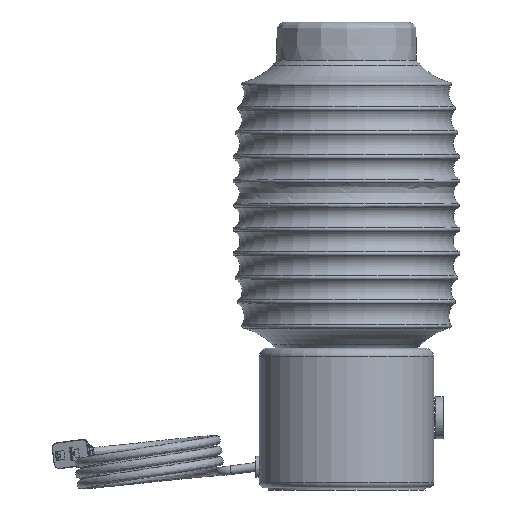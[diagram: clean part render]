
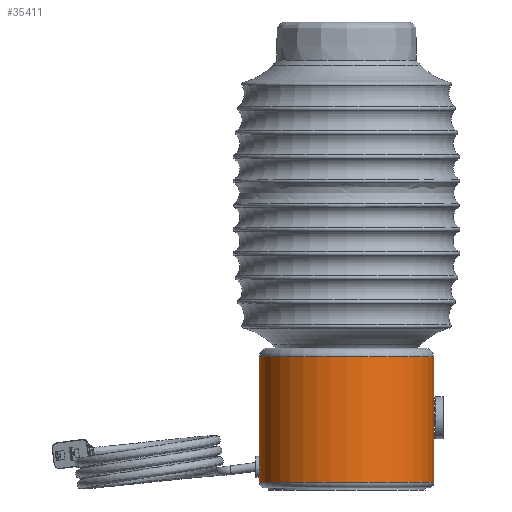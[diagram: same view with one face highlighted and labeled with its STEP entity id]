
A CAD part, left-side view. The second image highlights one B-rep face of the part: STEP entity #35411.
In plain terms, the highlighted cylindrical face has radius 63.5 mm (diameter 127 mm), a full revolution.
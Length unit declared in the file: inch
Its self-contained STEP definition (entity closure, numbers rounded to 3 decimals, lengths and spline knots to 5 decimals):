
#173=FACE_BOUND('',#6167,.T.);
#174=FACE_BOUND('',#6168,.T.);
#491=B_SPLINE_CURVE_WITH_KNOTS('',3,(#51754,#51755,#51756,#51757,#51758,
#51759,#51760,#51761,#51762,#51763,#51764,#51765,#51766,#51767,#51768,#51769,
#51770,#51771,#51772,#51773,#51774,#51775,#51776,#51777,#51778,#51779,#51780,
#51781,#51782,#51783,#51784,#51785,#51786,#51787),.UNSPECIFIED.,.T.,.F.,
(4,2,2,2,2,2,2,2,2,2,2,2,2,2,2,2,4),(0.,0.19144,0.38288,
0.57429,0.7657,0.95719,1.14868,
1.34013,1.53157,1.72302,1.91447,2.10596,
2.29745,2.48886,2.68027,2.87171,3.06315),
 .UNSPECIFIED.);
#492=B_SPLINE_CURVE_WITH_KNOTS('',3,(#51790,#51791,#51792,#51793,#51794,
#51795,#51796,#51797,#51798,#51799,#51800,#51801,#51802,#51803,#51804,#51805,
#51806,#51807),.UNSPECIFIED.,.F.,.F.,(4,2,2,2,2,2,2,2,4),(0.,0.14355,
0.28711,0.43066,0.57422,0.71777,
0.86133,1.00488,1.14844),.UNSPECIFIED.);
#493=B_SPLINE_CURVE_WITH_KNOTS('',3,(#51808,#51809,#51810,#51811,#51812,
#51813,#51814,#51815,#51816,#51817,#51818,#51819,#51820,#51821,#51822,#51823,
#51824,#51825),.UNSPECIFIED.,.F.,.F.,(4,2,2,2,2,2,2,2,4),(1.14844,
1.29199,1.43555,1.5791,1.72266,1.86621,
2.00976,2.15332,2.29687),.UNSPECIFIED.);
#4091=FACE_OUTER_BOUND('',#6166,.T.);
#6166=EDGE_LOOP('',(#24862,#24863,#24864,#24865));
#6167=EDGE_LOOP('',(#24866));
#6168=EDGE_LOOP('',(#24867,#24868));
#8380=LINE('',#51752,#11675);
#11675=VECTOR('',#39813,2.5);
#14932=CIRCLE('',#37759,2.5);
#14935=CIRCLE('',#37763,2.5);
#15477=VERTEX_POINT('',#51744);
#15479=VERTEX_POINT('',#51750);
#15480=VERTEX_POINT('',#51753);
#15481=VERTEX_POINT('',#51788);
#15482=VERTEX_POINT('',#51789);
#19141=EDGE_CURVE('',#15477,#15477,#14932,.T.);
#19144=EDGE_CURVE('',#15479,#15479,#14935,.T.);
#19145=EDGE_CURVE('',#15479,#15477,#8380,.T.);
#19146=EDGE_CURVE('',#15480,#15480,#491,.F.);
#19147=EDGE_CURVE('',#15481,#15482,#492,.T.);
#19148=EDGE_CURVE('',#15482,#15481,#493,.T.);
#24862=ORIENTED_EDGE('',*,*,#19144,.F.);
#24863=ORIENTED_EDGE('',*,*,#19145,.T.);
#24864=ORIENTED_EDGE('',*,*,#19141,.F.);
#24865=ORIENTED_EDGE('',*,*,#19145,.F.);
#24866=ORIENTED_EDGE('',*,*,#19146,.T.);
#24867=ORIENTED_EDGE('',*,*,#19147,.T.);
#24868=ORIENTED_EDGE('',*,*,#19148,.T.);
#35210=CYLINDRICAL_SURFACE('',#37762,2.5);
#35411=ADVANCED_FACE('',(#4091,#173,#174),#35210,.T.);
#37759=AXIS2_PLACEMENT_3D('',#51745,#39803,#39804);
#37762=AXIS2_PLACEMENT_3D('',#51749,#39809,#39810);
#37763=AXIS2_PLACEMENT_3D('',#51751,#39811,#39812);
#39803=DIRECTION('center_axis',(0.,0.,-1.));
#39804=DIRECTION('ref_axis',(1.,0.,0.));
#39809=DIRECTION('center_axis',(0.,0.,1.));
#39810=DIRECTION('ref_axis',(1.,0.,0.));
#39811=DIRECTION('center_axis',(0.,0.,1.));
#39812=DIRECTION('ref_axis',(1.,0.,0.));
#39813=DIRECTION('',(0.,0.,-1.));
#51744=CARTESIAN_POINT('',(-2.5,0.,0.16));
#51745=CARTESIAN_POINT('Origin',(0.,0.,0.16));
#51749=CARTESIAN_POINT('Origin',(0.,0.,0.));
#51750=CARTESIAN_POINT('',(-2.5,0.,3.75));
#51751=CARTESIAN_POINT('Origin',(0.,0.,3.75));
#51752=CARTESIAN_POINT('',(-2.5,0.,0.));
#51753=CARTESIAN_POINT('',(-0.18297,2.4933,0.60024));
#51754=CARTESIAN_POINT('Ctrl Pts',(-0.18297,2.4933,
0.60024));
#51755=CARTESIAN_POINT('Ctrl Pts',(-0.18297,2.4933,
0.62537));
#51756=CARTESIAN_POINT('Ctrl Pts',(-0.17795,2.49368,
0.65216));
#51757=CARTESIAN_POINT('Ctrl Pts',(-0.15753,2.49505,
0.70143));
#51758=CARTESIAN_POINT('Ctrl Pts',(-0.14214,2.49602,0.72392));
#51759=CARTESIAN_POINT('Ctrl Pts',(-0.10663,2.49779,0.75942));
#51760=CARTESIAN_POINT('Ctrl Pts',(-0.08415,2.49871,
0.77481));
#51761=CARTESIAN_POINT('Ctrl Pts',(-0.03488,2.49988,
0.79522));
#51762=CARTESIAN_POINT('Ctrl Pts',(-0.00809,2.50011,
0.80024));
#51763=CARTESIAN_POINT('Ctrl Pts',(0.04216,2.49977,
0.80024));
#51764=CARTESIAN_POINT('Ctrl Pts',(0.06896,2.49917,
0.79522));
#51765=CARTESIAN_POINT('Ctrl Pts',(0.11823,2.49732,0.7748));
#51766=CARTESIAN_POINT('Ctrl Pts',(0.14071,2.4961,0.75941));
#51767=CARTESIAN_POINT('Ctrl Pts',(0.17621,2.49385,0.72391));
#51768=CARTESIAN_POINT('Ctrl Pts',(0.1916,2.49267,0.70143));
#51769=CARTESIAN_POINT('Ctrl Pts',(0.21201,2.49102,0.65216));
#51770=CARTESIAN_POINT('Ctrl Pts',(0.21703,2.49056,0.62537));
#51771=CARTESIAN_POINT('Ctrl Pts',(0.21703,2.49056,0.57512));
#51772=CARTESIAN_POINT('Ctrl Pts',(0.21201,2.49102,0.54833));
#51773=CARTESIAN_POINT('Ctrl Pts',(0.1916,2.49267,0.49906));
#51774=CARTESIAN_POINT('Ctrl Pts',(0.17621,2.49385,0.47658));
#51775=CARTESIAN_POINT('Ctrl Pts',(0.14071,2.4961,0.44108));
#51776=CARTESIAN_POINT('Ctrl Pts',(0.11823,2.49732,0.42568));
#51777=CARTESIAN_POINT('Ctrl Pts',(0.06896,2.49917,
0.40527));
#51778=CARTESIAN_POINT('Ctrl Pts',(0.04216,2.49977,
0.40024));
#51779=CARTESIAN_POINT('Ctrl Pts',(-0.00809,2.50011,
0.40024));
#51780=CARTESIAN_POINT('Ctrl Pts',(-0.03488,2.49988,
0.40526));
#51781=CARTESIAN_POINT('Ctrl Pts',(-0.08415,2.49871,
0.42567));
#51782=CARTESIAN_POINT('Ctrl Pts',(-0.10663,2.49779,0.44106));
#51783=CARTESIAN_POINT('Ctrl Pts',(-0.14214,2.49602,0.47657));
#51784=CARTESIAN_POINT('Ctrl Pts',(-0.15753,2.49505,
0.49905));
#51785=CARTESIAN_POINT('Ctrl Pts',(-0.17795,2.49368,
0.54833));
#51786=CARTESIAN_POINT('Ctrl Pts',(-0.18297,2.4933,
0.57512));
#51787=CARTESIAN_POINT('Ctrl Pts',(-0.18297,2.4933,
0.60024));
#51788=CARTESIAN_POINT('',(0.15,-2.4955,2.));
#51789=CARTESIAN_POINT('',(-0.15,-2.4955,2.));
#51790=CARTESIAN_POINT('Ctrl Pts',(0.15,-2.4955,2.));
#51791=CARTESIAN_POINT('Ctrl Pts',(0.15,-2.4955,1.98116));
#51792=CARTESIAN_POINT('Ctrl Pts',(0.14623,-2.49573,
1.96107));
#51793=CARTESIAN_POINT('Ctrl Pts',(0.13092,-2.49658,
1.92411));
#51794=CARTESIAN_POINT('Ctrl Pts',(0.11938,-2.49718,
1.90725));
#51795=CARTESIAN_POINT('Ctrl Pts',(0.09275,-2.49831,
1.88062));
#51796=CARTESIAN_POINT('Ctrl Pts',(0.07589,-2.49892,
1.86908));
#51797=CARTESIAN_POINT('Ctrl Pts',(0.03893,-2.49977,
1.85377));
#51798=CARTESIAN_POINT('Ctrl Pts',(0.01884,-2.5,
1.85));
#51799=CARTESIAN_POINT('Ctrl Pts',(-0.01884,-2.5,
1.85));
#51800=CARTESIAN_POINT('Ctrl Pts',(-0.03893,-2.49977,
1.85377));
#51801=CARTESIAN_POINT('Ctrl Pts',(-0.07589,-2.49892,
1.86908));
#51802=CARTESIAN_POINT('Ctrl Pts',(-0.09275,-2.49831,
1.88062));
#51803=CARTESIAN_POINT('Ctrl Pts',(-0.11938,-2.49718,
1.90725));
#51804=CARTESIAN_POINT('Ctrl Pts',(-0.13092,-2.49658,
1.92411));
#51805=CARTESIAN_POINT('Ctrl Pts',(-0.14623,-2.49573,
1.96107));
#51806=CARTESIAN_POINT('Ctrl Pts',(-0.15,-2.4955,1.98116));
#51807=CARTESIAN_POINT('Ctrl Pts',(-0.15,-2.4955,2.));
#51808=CARTESIAN_POINT('Ctrl Pts',(-0.15,-2.4955,2.));
#51809=CARTESIAN_POINT('Ctrl Pts',(-0.15,-2.4955,2.01884));
#51810=CARTESIAN_POINT('Ctrl Pts',(-0.14623,-2.49573,
2.03893));
#51811=CARTESIAN_POINT('Ctrl Pts',(-0.13092,-2.49658,
2.07589));
#51812=CARTESIAN_POINT('Ctrl Pts',(-0.11938,-2.49718,
2.09275));
#51813=CARTESIAN_POINT('Ctrl Pts',(-0.09275,-2.49831,
2.11938));
#51814=CARTESIAN_POINT('Ctrl Pts',(-0.07589,-2.49892,
2.13092));
#51815=CARTESIAN_POINT('Ctrl Pts',(-0.03893,-2.49977,
2.14623));
#51816=CARTESIAN_POINT('Ctrl Pts',(-0.01884,-2.5,
2.15));
#51817=CARTESIAN_POINT('Ctrl Pts',(0.01884,-2.5,
2.15));
#51818=CARTESIAN_POINT('Ctrl Pts',(0.03893,-2.49977,
2.14623));
#51819=CARTESIAN_POINT('Ctrl Pts',(0.07589,-2.49892,
2.13092));
#51820=CARTESIAN_POINT('Ctrl Pts',(0.09275,-2.49831,
2.11938));
#51821=CARTESIAN_POINT('Ctrl Pts',(0.11938,-2.49718,
2.09275));
#51822=CARTESIAN_POINT('Ctrl Pts',(0.13092,-2.49658,
2.07589));
#51823=CARTESIAN_POINT('Ctrl Pts',(0.14623,-2.49573,
2.03893));
#51824=CARTESIAN_POINT('Ctrl Pts',(0.15,-2.4955,2.01884));
#51825=CARTESIAN_POINT('Ctrl Pts',(0.15,-2.4955,2.));
